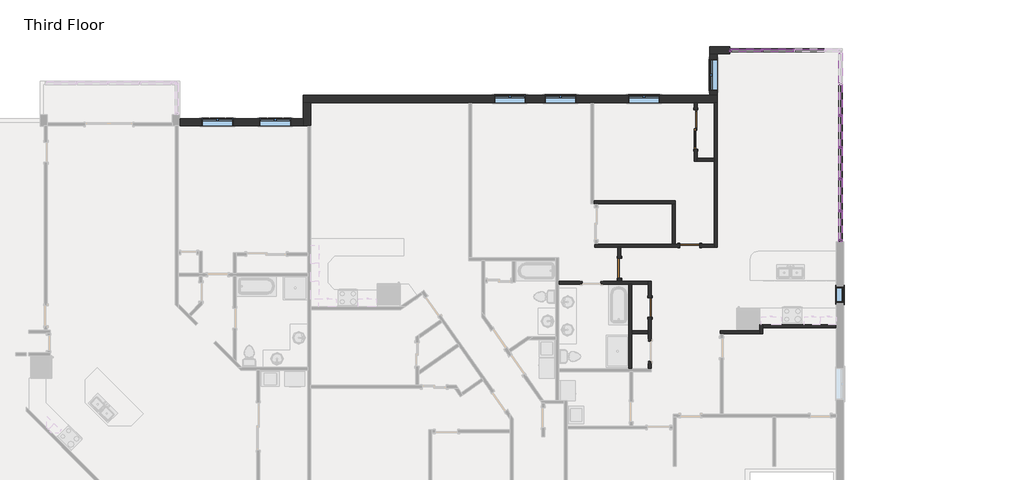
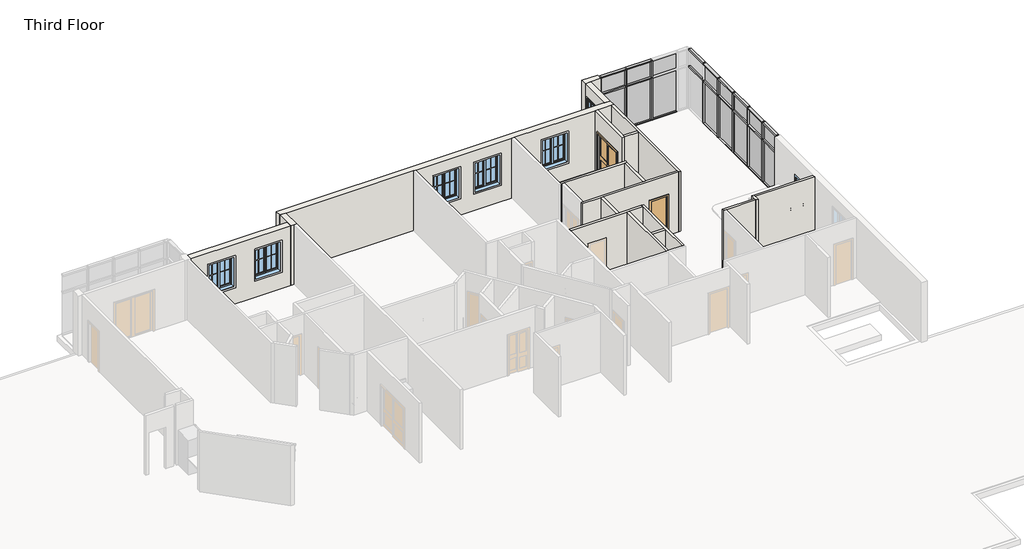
# One storey, part 12 of 17: 41 members, 19 walls, 16 plates, 7 windows, 4 doors.
"""IFC4 building model written with IfcOpenShell, lengths in millimetres."""

from ifc_helpers import new_model, si_unit, frame, origin, place, context, project, spatial, polyline, outline, extrude, faceted_brep, transform, mapped, element, save
from components import door_f2b275c1, door_2e7ec8be, rectangular_mullion_rectangular_mullion_1_fa3625a1, rectangular_mullion_rectangular_mullion_1_a50b3cda, rectangular_mullion_rectangular_mullion_1_5cd4c5ac, rectangular_mullion_rectangular_mullion_1_7cbf0b94, rectangular_mullion_rectangular_mullion_1_6186cc23, rectangular_mullion_rectangular_mullion_1_049a2e78, rectangular_mullion_rectangular_mullion_1_fcad50a8, rectangular_mullion_rectangular_mullion_1_aa096312, system_panel_glazed_53e6f9fb, system_panel_glazed_cb820e14, system_panel_glazed_f20beefc, system_panel_glazed_097fd36c, window_b85827b5, window_33528cc2

model = new_model("IFC4")

# Units and contexts
model_context = context("Model", 3, world=origin())
ifc_project = project(units=[si_unit("LENGTHUNIT", "METRE", prefix="MILLI")], contexts=[model_context])

# Site, building, storey
site = spatial("IfcSite", under=ifc_project)
building = spatial("IfcBuilding", under=site)
storey = spatial("IfcBuildingStorey", under=building, Name="Third Floor", Elevation=6096.0)

# Doors
placement = place(None, origin())
door_shape = door_f2b275c1(model_context)
element("IfcDoor", 1, ObjectType="Single-Flush : 30\" x 80\"", at=placement, inside=storey, context=model_context, shape_type="MappedRepresentation", body=[
    mapped(door_shape, transform((49850.4788879, 9096.855328, 6096.0), x_axis=(0.0, 1.0, 0.0), y_axis=(-1.0, 0.0, 0.0), z_axis=(0.0, 0.0, 1.0))),
])
element("IfcDoor", 2, ObjectType="Single-Flush : 30\" x 80\"", at=placement, inside=storey, context=model_context, shape_type="MappedRepresentation", body=[
    mapped(door_shape, transform((51382.3746633, 11479.9245559, 6096.0), x_axis=(-1.0, 0.0, 0.0), y_axis=(0.0, -1.0, 0.0), z_axis=(0.0, 0.0, 1.0))),
])
element("IfcDoor", 3, ObjectType="Single-Flush : 30\" x 80\"", at=placement, inside=storey, context=model_context, shape_type="MappedRepresentation", body=[
    mapped(door_shape, transform((48681.6260153, 10610.1456327, 6096.0), x_axis=(0.0, -1.0, 0.0), y_axis=(1.0, 0.0, 0.0), z_axis=(0.0, 0.0, 1.0))),
])
door_2_shape = door_2e7ec8be(model_context)
element("IfcDoor", 4, ObjectType="Sliding-Closet : 60\" x 80\"", at=placement, inside=storey, context=model_context, shape_type="MappedRepresentation", body=[
    mapped(door_2_shape, transform((51741.9440158, 15942.0032713, 6096.0), x_axis=(0.0, 1.0, 0.0), y_axis=(-1.0, 0.0, 0.0), z_axis=(0.0, 0.0, 1.0))),
])

# Members
rectangular_mullion_rectangular_mullion_1_shape = rectangular_mullion_rectangular_mullion_1_fa3625a1(model_context)
element("IfcMember", 5, ObjectType="Rectangular Mullion : Rectangular Mullion 1", at=placement, inside=storey, context=model_context, shape_type="MappedRepresentation", body=[
    mapped(rectangular_mullion_rectangular_mullion_1_shape, transform((54133.5034233, 18983.9169819, 9144.0), x_axis=(0.0, 0.0, 1.0), y_axis=(0.0, -1.0, 0.0), z_axis=(1.0, 0.0, 0.0))),
])
element("IfcMember", 6, ObjectType="Rectangular Mullion : Rectangular Mullion 1", at=placement, inside=storey, context=model_context, shape_type="MappedRepresentation", body=[
    mapped(rectangular_mullion_rectangular_mullion_1_shape, transform((55352.7034233, 18983.9169819, 9144.0), x_axis=(0.0, 0.0, 1.0), y_axis=(0.0, -1.0, 0.0), z_axis=(1.0, 0.0, 0.0))),
])
element("IfcMember", 7, ObjectType="Rectangular Mullion : Rectangular Mullion 1", at=placement, inside=storey, context=model_context, shape_type="MappedRepresentation", body=[
    mapped(rectangular_mullion_rectangular_mullion_1_shape, transform((57175.1534229, 17720.2669816, 9144.0), x_axis=(0.0, 0.0, 1.0), y_axis=(-1.0, 0.0, 0.0), z_axis=(0.0, -1.0, 0.0))),
])
element("IfcMember", 8, ObjectType="Rectangular Mullion : Rectangular Mullion 1", at=placement, inside=storey, context=model_context, shape_type="MappedRepresentation", body=[
    mapped(rectangular_mullion_rectangular_mullion_1_shape, transform((57175.1534229, 16501.0669816, 9144.0), x_axis=(0.0, 0.0, 1.0), y_axis=(-1.0, 0.0, 0.0), z_axis=(0.0, -1.0, 0.0))),
])
element("IfcMember", 9, ObjectType="Rectangular Mullion : Rectangular Mullion 1", at=placement, inside=storey, context=model_context, shape_type="MappedRepresentation", body=[
    mapped(rectangular_mullion_rectangular_mullion_1_shape, transform((57175.1534229, 15281.8669816, 9144.0), x_axis=(0.0, 0.0, 1.0), y_axis=(-1.0, 0.0, 0.0), z_axis=(0.0, -1.0, 0.0))),
])
element("IfcMember", 10, ObjectType="Rectangular Mullion : Rectangular Mullion 1", at=placement, inside=storey, context=model_context, shape_type="MappedRepresentation", body=[
    mapped(rectangular_mullion_rectangular_mullion_1_shape, transform((57175.1534229, 14062.6669816, 9144.0), x_axis=(0.0, 0.0, 1.0), y_axis=(-1.0, 0.0, 0.0), z_axis=(0.0, -1.0, 0.0))),
])
element("IfcMember", 11, ObjectType="Rectangular Mullion : Rectangular Mullion 1", at=placement, inside=storey, context=model_context, shape_type="MappedRepresentation", body=[
    mapped(rectangular_mullion_rectangular_mullion_1_shape, transform((57175.1534229, 12843.4669816, 9144.0), x_axis=(0.0, 0.0, 1.0), y_axis=(-1.0, 0.0, 0.0), z_axis=(0.0, -1.0, 0.0))),
])
element("IfcMember", 12, ObjectType="Rectangular Mullion : Rectangular Mullion 1", at=placement, inside=storey, context=model_context, shape_type="MappedRepresentation", body=[
    mapped(rectangular_mullion_rectangular_mullion_1_shape, transform((52977.8034229, 18983.9169819, 6096.0), x_axis=(0.0, 0.0, -1.0), y_axis=(0.0, -1.0, 0.0), z_axis=(-1.0, 0.0, 0.0))),
])
element("IfcMember", 13, ObjectType="Rectangular Mullion : Rectangular Mullion 1", at=placement, inside=storey, context=model_context, shape_type="MappedRepresentation", body=[
    mapped(rectangular_mullion_rectangular_mullion_1_shape, transform((54197.0034233, 18983.9169819, 6096.0), x_axis=(0.0, 0.0, -1.0), y_axis=(0.0, -1.0, 0.0), z_axis=(-1.0, 0.0, 0.0))),
])
element("IfcMember", 14, ObjectType="Rectangular Mullion : Rectangular Mullion 1", at=placement, inside=storey, context=model_context, shape_type="MappedRepresentation", body=[
    mapped(rectangular_mullion_rectangular_mullion_1_shape, transform((55416.2034233, 18983.9169819, 6096.0), x_axis=(0.0, 0.0, -1.0), y_axis=(0.0, -1.0, 0.0), z_axis=(-1.0, 0.0, 0.0))),
])
element("IfcMember", 15, ObjectType="Rectangular Mullion : Rectangular Mullion 1", at=placement, inside=storey, context=model_context, shape_type="MappedRepresentation", body=[
    mapped(rectangular_mullion_rectangular_mullion_1_shape, transform((57175.1534229, 17656.7669816, 6096.0), x_axis=(0.0, 0.0, -1.0), y_axis=(-1.0, 0.0, 0.0), z_axis=(0.0, 1.0, 0.0))),
])
element("IfcMember", 16, ObjectType="Rectangular Mullion : Rectangular Mullion 1", at=placement, inside=storey, context=model_context, shape_type="MappedRepresentation", body=[
    mapped(rectangular_mullion_rectangular_mullion_1_shape, transform((57175.1534229, 16437.5669816, 6096.0), x_axis=(0.0, 0.0, -1.0), y_axis=(-1.0, 0.0, 0.0), z_axis=(0.0, 1.0, 0.0))),
])
element("IfcMember", 17, ObjectType="Rectangular Mullion : Rectangular Mullion 1", at=placement, inside=storey, context=model_context, shape_type="MappedRepresentation", body=[
    mapped(rectangular_mullion_rectangular_mullion_1_shape, transform((57175.1534229, 15218.3669816, 6096.0), x_axis=(0.0, 0.0, -1.0), y_axis=(-1.0, 0.0, 0.0), z_axis=(0.0, 1.0, 0.0))),
])
element("IfcMember", 18, ObjectType="Rectangular Mullion : Rectangular Mullion 1", at=placement, inside=storey, context=model_context, shape_type="MappedRepresentation", body=[
    mapped(rectangular_mullion_rectangular_mullion_1_shape, transform((57175.1534229, 13999.1669816, 6096.0), x_axis=(0.0, 0.0, -1.0), y_axis=(-1.0, 0.0, 0.0), z_axis=(0.0, 1.0, 0.0))),
])
rectangular_mullion_rectangular_mullion_1_2_shape = rectangular_mullion_rectangular_mullion_1_a50b3cda(model_context)
element("IfcMember", 19, ObjectType="Rectangular Mullion : Rectangular Mullion 1", at=placement, inside=storey, context=model_context, shape_type="MappedRepresentation", body=[
    mapped(rectangular_mullion_rectangular_mullion_1_2_shape, transform((57175.1534229, 11632.2044819, 6096.0), x_axis=(0.0, -1.0, 0.0), y_axis=(-1.0, 0.0, 0.0), z_axis=(0.0, 0.0, -1.0))),
])
rectangular_mullion_rectangular_mullion_1_3_shape = rectangular_mullion_rectangular_mullion_1_5cd4c5ac(model_context)
element("IfcMember", 20, ObjectType="Rectangular Mullion : Rectangular Mullion 1", at=placement, inside=storey, context=model_context, shape_type="MappedRepresentation", body=[
    mapped(rectangular_mullion_rectangular_mullion_1_3_shape, transform((57175.1534229, 11632.2044819, 8261.35), x_axis=(0.0, -1.0, 0.0), y_axis=(-1.0, 0.0, 0.0), z_axis=(0.0, 0.0, -1.0))),
])
element("IfcMember", 21, ObjectType="Rectangular Mullion : Rectangular Mullion 1", at=placement, inside=storey, context=model_context, shape_type="MappedRepresentation", body=[
    mapped(rectangular_mullion_rectangular_mullion_1_3_shape, transform((52914.3034229, 18983.9169819, 9144.0), x_axis=(-1.0, 0.0, 0.0), y_axis=(0.0, -1.0, 0.0), z_axis=(0.0, 0.0, 1.0))),
])
element("IfcMember", 22, ObjectType="Rectangular Mullion : Rectangular Mullion 1", at=placement, inside=storey, context=model_context, shape_type="MappedRepresentation", body=[
    mapped(rectangular_mullion_rectangular_mullion_1_2_shape, transform((52914.3034229, 18983.9169819, 8261.35), x_axis=(-1.0, 0.0, 0.0), y_axis=(0.0, -1.0, 0.0), z_axis=(0.0, 0.0, 1.0))),
])
rectangular_mullion_rectangular_mullion_1_4_shape = rectangular_mullion_rectangular_mullion_1_7cbf0b94(model_context)
element("IfcMember", 23, ObjectType="Rectangular Mullion : Rectangular Mullion 1", at=placement, inside=storey, context=model_context, shape_type="MappedRepresentation", body=[
    mapped(rectangular_mullion_rectangular_mullion_1_4_shape, transform((54133.5034233, 18983.9169819, 8261.35), x_axis=(0.0, 0.0, 1.0), y_axis=(0.0, -1.0, 0.0), z_axis=(1.0, 0.0, 0.0))),
])
element("IfcMember", 24, ObjectType="Rectangular Mullion : Rectangular Mullion 1", at=placement, inside=storey, context=model_context, shape_type="MappedRepresentation", body=[
    mapped(rectangular_mullion_rectangular_mullion_1_4_shape, transform((55352.7034233, 18983.9169819, 8261.35), x_axis=(0.0, 0.0, 1.0), y_axis=(0.0, -1.0, 0.0), z_axis=(1.0, 0.0, 0.0))),
])
element("IfcMember", 25, ObjectType="Rectangular Mullion : Rectangular Mullion 1", at=placement, inside=storey, context=model_context, shape_type="MappedRepresentation", body=[
    mapped(rectangular_mullion_rectangular_mullion_1_4_shape, transform((57175.1534229, 17720.2669816, 8261.35), x_axis=(0.0, 0.0, 1.0), y_axis=(-1.0, 0.0, 0.0), z_axis=(0.0, -1.0, 0.0))),
])
element("IfcMember", 26, ObjectType="Rectangular Mullion : Rectangular Mullion 1", at=placement, inside=storey, context=model_context, shape_type="MappedRepresentation", body=[
    mapped(rectangular_mullion_rectangular_mullion_1_4_shape, transform((57175.1534229, 16501.0669816, 8261.35), x_axis=(0.0, 0.0, 1.0), y_axis=(-1.0, 0.0, 0.0), z_axis=(0.0, -1.0, 0.0))),
])
element("IfcMember", 27, ObjectType="Rectangular Mullion : Rectangular Mullion 1", at=placement, inside=storey, context=model_context, shape_type="MappedRepresentation", body=[
    mapped(rectangular_mullion_rectangular_mullion_1_4_shape, transform((57175.1534229, 15281.8669816, 8261.35), x_axis=(0.0, 0.0, 1.0), y_axis=(-1.0, 0.0, 0.0), z_axis=(0.0, -1.0, 0.0))),
])
element("IfcMember", 28, ObjectType="Rectangular Mullion : Rectangular Mullion 1", at=placement, inside=storey, context=model_context, shape_type="MappedRepresentation", body=[
    mapped(rectangular_mullion_rectangular_mullion_1_4_shape, transform((57175.1534229, 14062.6669816, 8261.35), x_axis=(0.0, 0.0, 1.0), y_axis=(-1.0, 0.0, 0.0), z_axis=(0.0, -1.0, 0.0))),
])
element("IfcMember", 29, ObjectType="Rectangular Mullion : Rectangular Mullion 1", at=placement, inside=storey, context=model_context, shape_type="MappedRepresentation", body=[
    mapped(rectangular_mullion_rectangular_mullion_1_4_shape, transform((57175.1534229, 12843.4669816, 8261.35), x_axis=(0.0, 0.0, 1.0), y_axis=(-1.0, 0.0, 0.0), z_axis=(0.0, -1.0, 0.0))),
])
rectangular_mullion_rectangular_mullion_1_5_shape = rectangular_mullion_rectangular_mullion_1_6186cc23(model_context)
element("IfcMember", 30, ObjectType="Rectangular Mullion : Rectangular Mullion 1", at=placement, inside=storey, context=model_context, shape_type="MappedRepresentation", body=[
    mapped(rectangular_mullion_rectangular_mullion_1_5_shape, transform((54165.2534233, 18983.9169819, 6096.0), x_axis=(1.0, 0.0, 0.0), y_axis=(0.0, -1.0, 0.0), z_axis=(0.0, 0.0, -1.0))),
])
element("IfcMember", 31, ObjectType="Rectangular Mullion : Rectangular Mullion 1", at=placement, inside=storey, context=model_context, shape_type="MappedRepresentation", body=[
    mapped(rectangular_mullion_rectangular_mullion_1_5_shape, transform((55384.4534233, 18983.9169819, 6096.0), x_axis=(1.0, 0.0, 0.0), y_axis=(0.0, -1.0, 0.0), z_axis=(0.0, 0.0, -1.0))),
])
element("IfcMember", 32, ObjectType="Rectangular Mullion : Rectangular Mullion 1", at=placement, inside=storey, context=model_context, shape_type="MappedRepresentation", body=[
    mapped(rectangular_mullion_rectangular_mullion_1_5_shape, transform((57175.1534229, 17688.5169816, 6096.0), x_axis=(0.0, -1.0, 0.0), y_axis=(-1.0, 0.0, 0.0), z_axis=(0.0, 0.0, -1.0))),
])
element("IfcMember", 33, ObjectType="Rectangular Mullion : Rectangular Mullion 1", at=placement, inside=storey, context=model_context, shape_type="MappedRepresentation", body=[
    mapped(rectangular_mullion_rectangular_mullion_1_5_shape, transform((57175.1534229, 16469.3169816, 6096.0), x_axis=(0.0, -1.0, 0.0), y_axis=(-1.0, 0.0, 0.0), z_axis=(0.0, 0.0, -1.0))),
])
element("IfcMember", 34, ObjectType="Rectangular Mullion : Rectangular Mullion 1", at=placement, inside=storey, context=model_context, shape_type="MappedRepresentation", body=[
    mapped(rectangular_mullion_rectangular_mullion_1_5_shape, transform((57175.1534229, 15250.1169816, 6096.0), x_axis=(0.0, -1.0, 0.0), y_axis=(-1.0, 0.0, 0.0), z_axis=(0.0, 0.0, -1.0))),
])
element("IfcMember", 35, ObjectType="Rectangular Mullion : Rectangular Mullion 1", at=placement, inside=storey, context=model_context, shape_type="MappedRepresentation", body=[
    mapped(rectangular_mullion_rectangular_mullion_1_5_shape, transform((57175.1534229, 14030.9169816, 6096.0), x_axis=(0.0, -1.0, 0.0), y_axis=(-1.0, 0.0, 0.0), z_axis=(0.0, 0.0, -1.0))),
])
element("IfcMember", 36, ObjectType="Rectangular Mullion : Rectangular Mullion 1", at=placement, inside=storey, context=model_context, shape_type="MappedRepresentation", body=[
    mapped(rectangular_mullion_rectangular_mullion_1_5_shape, transform((57175.1534229, 12811.7169816, 6096.0), x_axis=(0.0, -1.0, 0.0), y_axis=(-1.0, 0.0, 0.0), z_axis=(0.0, 0.0, -1.0))),
])
rectangular_mullion_rectangular_mullion_1_6_shape = rectangular_mullion_rectangular_mullion_1_049a2e78(model_context)
element("IfcMember", 37, ObjectType="Rectangular Mullion : Rectangular Mullion 1", at=placement, inside=storey, context=model_context, shape_type="MappedRepresentation", body=[
    mapped(rectangular_mullion_rectangular_mullion_1_6_shape, transform((54165.2534233, 18983.9169819, 8261.35), x_axis=(1.0, 0.0, 0.0), y_axis=(0.0, -1.0, 0.0), z_axis=(0.0, 0.0, -1.0))),
])
element("IfcMember", 38, ObjectType="Rectangular Mullion : Rectangular Mullion 1", at=placement, inside=storey, context=model_context, shape_type="MappedRepresentation", body=[
    mapped(rectangular_mullion_rectangular_mullion_1_6_shape, transform((55384.4534233, 18983.9169819, 8261.35), x_axis=(1.0, 0.0, 0.0), y_axis=(0.0, -1.0, 0.0), z_axis=(0.0, 0.0, -1.0))),
])
element("IfcMember", 39, ObjectType="Rectangular Mullion : Rectangular Mullion 1", at=placement, inside=storey, context=model_context, shape_type="MappedRepresentation", body=[
    mapped(rectangular_mullion_rectangular_mullion_1_6_shape, transform((57175.1534229, 16469.3169816, 8261.35), x_axis=(0.0, -1.0, 0.0), y_axis=(-1.0, 0.0, 0.0), z_axis=(0.0, 0.0, -1.0))),
])
element("IfcMember", 40, ObjectType="Rectangular Mullion : Rectangular Mullion 1", at=placement, inside=storey, context=model_context, shape_type="MappedRepresentation", body=[
    mapped(rectangular_mullion_rectangular_mullion_1_6_shape, transform((57175.1534229, 15250.1169816, 8261.35), x_axis=(0.0, -1.0, 0.0), y_axis=(-1.0, 0.0, 0.0), z_axis=(0.0, 0.0, -1.0))),
])
element("IfcMember", 41, ObjectType="Rectangular Mullion : Rectangular Mullion 1", at=placement, inside=storey, context=model_context, shape_type="MappedRepresentation", body=[
    mapped(rectangular_mullion_rectangular_mullion_1_6_shape, transform((57175.1534229, 14030.9169816, 8261.35), x_axis=(0.0, -1.0, 0.0), y_axis=(-1.0, 0.0, 0.0), z_axis=(0.0, 0.0, -1.0))),
])
element("IfcMember", 42, ObjectType="Rectangular Mullion : Rectangular Mullion 1", at=placement, inside=storey, context=model_context, shape_type="MappedRepresentation", body=[
    mapped(rectangular_mullion_rectangular_mullion_1_6_shape, transform((57175.1534229, 12811.7169816, 8261.35), x_axis=(0.0, -1.0, 0.0), y_axis=(-1.0, 0.0, 0.0), z_axis=(0.0, 0.0, -1.0))),
])
rectangular_mullion_rectangular_mullion_1_7_shape = rectangular_mullion_rectangular_mullion_1_fcad50a8(model_context)
element("IfcMember", 43, ObjectType="Rectangular Mullion : Rectangular Mullion 1", at=placement, inside=storey, context=model_context, shape_type="MappedRepresentation", body=[
    mapped(rectangular_mullion_rectangular_mullion_1_7_shape, transform((57175.1534229, 11695.7044819, 9144.0), x_axis=(0.0, 0.0, 1.0), y_axis=(-1.0, 0.0, 0.0), z_axis=(0.0, -1.0, 0.0))),
])
element("IfcMember", 44, ObjectType="Rectangular Mullion : Rectangular Mullion 1", at=placement, inside=storey, context=model_context, shape_type="MappedRepresentation", body=[
    mapped(rectangular_mullion_rectangular_mullion_1_7_shape, transform((57175.1534229, 12779.9669816, 6096.0), x_axis=(0.0, 0.0, -1.0), y_axis=(-1.0, 0.0, 0.0), z_axis=(0.0, 1.0, 0.0))),
])
rectangular_mullion_rectangular_mullion_1_8_shape = rectangular_mullion_rectangular_mullion_1_aa096312(model_context)
element("IfcMember", 45, ObjectType="Rectangular Mullion : Rectangular Mullion 1", at=placement, inside=storey, context=model_context, shape_type="MappedRepresentation", body=[
    mapped(rectangular_mullion_rectangular_mullion_1_8_shape, transform((57175.1534229, 11695.7044819, 8261.35), x_axis=(0.0, 0.0, 1.0), y_axis=(-1.0, 0.0, 0.0), z_axis=(0.0, -1.0, 0.0))),
])

# Plates
system_panel_glazed_shape = system_panel_glazed_53e6f9fb(model_context)
element("IfcPlate", 46, ObjectType="System Panel : Glazed", at=placement, inside=storey, context=model_context, shape_type="MappedRepresentation", body=[
    mapped(system_panel_glazed_shape, transform((53555.6534231, 18983.9169819, 6159.5), x_axis=(1.0, 0.0, 0.0), y_axis=(0.0, 1.0, 0.0), z_axis=(0.0, 0.0, 1.0))),
])
element("IfcPlate", 47, ObjectType="System Panel : Glazed", at=placement, inside=storey, context=model_context, shape_type="MappedRepresentation", body=[
    mapped(system_panel_glazed_shape, transform((54774.8534233, 18983.9169819, 6159.5), x_axis=(1.0, 0.0, 0.0), y_axis=(0.0, 1.0, 0.0), z_axis=(0.0, 0.0, 1.0))),
])
element("IfcPlate", 48, ObjectType="System Panel : Glazed", at=placement, inside=storey, context=model_context, shape_type="MappedRepresentation", body=[
    mapped(system_panel_glazed_shape, transform((55994.0534233, 18983.9169819, 6159.5), x_axis=(1.0, 0.0, 0.0), y_axis=(0.0, 1.0, 0.0), z_axis=(0.0, 0.0, 1.0))),
])
element("IfcPlate", 49, ObjectType="System Panel : Glazed", at=placement, inside=storey, context=model_context, shape_type="MappedRepresentation", body=[
    mapped(system_panel_glazed_shape, transform((57175.1534229, 17078.9169816, 6159.5), x_axis=(0.0, -1.0, 0.0), y_axis=(1.0, 0.0, 0.0), z_axis=(0.0, 0.0, 1.0))),
])
element("IfcPlate", 50, ObjectType="System Panel : Glazed", at=placement, inside=storey, context=model_context, shape_type="MappedRepresentation", body=[
    mapped(system_panel_glazed_shape, transform((57175.1534229, 15859.7169816, 6159.5), x_axis=(0.0, -1.0, 0.0), y_axis=(1.0, 0.0, 0.0), z_axis=(0.0, 0.0, 1.0))),
])
element("IfcPlate", 51, ObjectType="System Panel : Glazed", at=placement, inside=storey, context=model_context, shape_type="MappedRepresentation", body=[
    mapped(system_panel_glazed_shape, transform((57175.1534229, 14640.5169816, 6159.5), x_axis=(0.0, -1.0, 0.0), y_axis=(1.0, 0.0, 0.0), z_axis=(0.0, 0.0, 1.0))),
])
element("IfcPlate", 52, ObjectType="System Panel : Glazed", at=placement, inside=storey, context=model_context, shape_type="MappedRepresentation", body=[
    mapped(system_panel_glazed_shape, transform((57175.1534229, 13421.3169816, 6159.5), x_axis=(0.0, -1.0, 0.0), y_axis=(1.0, 0.0, 0.0), z_axis=(0.0, 0.0, 1.0))),
])
system_panel_glazed_2_shape = system_panel_glazed_cb820e14(model_context)
element("IfcPlate", 53, ObjectType="System Panel : Glazed", at=placement, inside=storey, context=model_context, shape_type="MappedRepresentation", body=[
    mapped(system_panel_glazed_2_shape, transform((53555.6534231, 18983.9169819, 8293.1), x_axis=(1.0, 0.0, 0.0), y_axis=(0.0, 1.0, 0.0), z_axis=(0.0, 0.0, 1.0))),
])
element("IfcPlate", 54, ObjectType="System Panel : Glazed", at=placement, inside=storey, context=model_context, shape_type="MappedRepresentation", body=[
    mapped(system_panel_glazed_2_shape, transform((54774.8534233, 18983.9169819, 8293.1), x_axis=(1.0, 0.0, 0.0), y_axis=(0.0, 1.0, 0.0), z_axis=(0.0, 0.0, 1.0))),
])
element("IfcPlate", 55, ObjectType="System Panel : Glazed", at=placement, inside=storey, context=model_context, shape_type="MappedRepresentation", body=[
    mapped(system_panel_glazed_2_shape, transform((55994.0534233, 18983.9169819, 8293.1), x_axis=(1.0, 0.0, 0.0), y_axis=(0.0, 1.0, 0.0), z_axis=(0.0, 0.0, 1.0))),
])
element("IfcPlate", 56, ObjectType="System Panel : Glazed", at=placement, inside=storey, context=model_context, shape_type="MappedRepresentation", body=[
    mapped(system_panel_glazed_2_shape, transform((57175.1534229, 17078.9169816, 8293.1), x_axis=(0.0, -1.0, 0.0), y_axis=(1.0, 0.0, 0.0), z_axis=(0.0, 0.0, 1.0))),
])
element("IfcPlate", 57, ObjectType="System Panel : Glazed", at=placement, inside=storey, context=model_context, shape_type="MappedRepresentation", body=[
    mapped(system_panel_glazed_2_shape, transform((57175.1534229, 15859.7169816, 8293.1), x_axis=(0.0, -1.0, 0.0), y_axis=(1.0, 0.0, 0.0), z_axis=(0.0, 0.0, 1.0))),
])
element("IfcPlate", 58, ObjectType="System Panel : Glazed", at=placement, inside=storey, context=model_context, shape_type="MappedRepresentation", body=[
    mapped(system_panel_glazed_2_shape, transform((57175.1534229, 14640.5169816, 8293.1), x_axis=(0.0, -1.0, 0.0), y_axis=(1.0, 0.0, 0.0), z_axis=(0.0, 0.0, 1.0))),
])
element("IfcPlate", 59, ObjectType="System Panel : Glazed", at=placement, inside=storey, context=model_context, shape_type="MappedRepresentation", body=[
    mapped(system_panel_glazed_2_shape, transform((57175.1534229, 13421.3169816, 8293.1), x_axis=(0.0, -1.0, 0.0), y_axis=(1.0, 0.0, 0.0), z_axis=(0.0, 0.0, 1.0))),
])
system_panel_glazed_3_shape = system_panel_glazed_f20beefc(model_context)
element("IfcPlate", 60, ObjectType="System Panel : Glazed", at=placement, inside=storey, context=model_context, shape_type="MappedRepresentation", body=[
    mapped(system_panel_glazed_3_shape, transform((57175.1534229, 12237.8357318, 6159.5), x_axis=(0.0, -1.0, 0.0), y_axis=(1.0, 0.0, 0.0), z_axis=(0.0, 0.0, 1.0))),
])
system_panel_glazed_4_shape = system_panel_glazed_097fd36c(model_context)
element("IfcPlate", 61, ObjectType="System Panel : Glazed", at=placement, inside=storey, context=model_context, shape_type="MappedRepresentation", body=[
    mapped(system_panel_glazed_4_shape, transform((57175.1534229, 12237.8357318, 8293.1), x_axis=(0.0, -1.0, 0.0), y_axis=(1.0, 0.0, 0.0), z_axis=(0.0, 0.0, 1.0))),
])

# Walls
element("IfcWall", 62, ObjectType="Exterior - Brick on Wood Stud", at=placement, inside=storey, context=model_context, shape_type="Brep", body=[
    faceted_brep([(52157.0659229, 18842.6294819, 6096.0), (52439.6409229, 18842.6294819, 6096.0), (52914.3034229, 18842.6294819, 6096.0), (52914.3034229, 18842.6294819, 9144.0), (52439.6409229, 18842.6294819, 9144.0), (52157.0659229, 18842.6294819, 9144.0), (52157.0659229, 19125.2044819, 6096.0), (52157.0659229, 19125.2044819, 9144.0), (52914.3034229, 19125.2044819, 9144.0), (52914.3034229, 19125.2044819, 6096.0)], [[[0, 1, 2, 3, 4, 5]], [[6, 7, 8, 9]], [[2, 1, 0, 6, 9]], [[3, 2, 9, 8]], [[5, 4, 3, 8, 7]], [[0, 5, 7, 6]]]),
])
element("IfcWall", 63, ObjectType="Exterior - Brick on Wood Stud", at=placement, inside=storey, context=model_context, shape_type="Brep", body=[
    faceted_brep([(36533.8428001, 16964.1039258, 6096.0), (36816.4178001, 16964.1039258, 6096.0), (42890.1928001, 16964.1039258, 6096.0), (43004.4928001, 16964.1039258, 6096.0), (47578.7440143, 16964.1039258, 6096.0), (47693.0440143, 16964.1039258, 6096.0), (51557.7940158, 16964.1039258, 6096.0), (51672.0940158, 16964.1039258, 6096.0), (52325.3409229, 16964.1039258, 6096.0), (52439.6409229, 16964.1039258, 6096.0), (52439.6409229, 16964.1039258, 9144.0), (52325.3409229, 16964.1039258, 9144.0), (51672.0940158, 16964.1039258, 9144.0), (51557.7940158, 16964.1039258, 9144.0), (47693.0440143, 16964.1039258, 9144.0), (47578.7440143, 16964.1039258, 9144.0), (43004.4928001, 16964.1039258, 9144.0), (42890.1928001, 16964.1039258, 9144.0), (36816.4178001, 16964.1039258, 9144.0), (36533.8428001, 16964.1039258, 9144.0), (45080.9428001, 16964.1039258, 8534.4), (45080.9428001, 16964.1039258, 7010.4), (43861.7428001, 16964.1039258, 7010.4), (43861.7428001, 16964.1039258, 8534.4), (50235.0190151, 16964.1039258, 8534.4), (50235.0190151, 16964.1039258, 7010.4), (49015.8190151, 16964.1039258, 7010.4), (49015.8190151, 16964.1039258, 8534.4), (47026.2940143, 16964.1039258, 8534.4), (47026.2940143, 16964.1039258, 7010.4), (45807.0940143, 16964.1039258, 7010.4), (45807.0940143, 16964.1039258, 8534.4), (36533.8428001, 17246.6789258, 6096.0), (36533.8428001, 17246.6789258, 9144.0), (52157.0659229, 17246.6789258, 9144.0), (52439.6409229, 17246.6789258, 9144.0), (52439.6409229, 17246.6789258, 6096.0), (52157.0659229, 17246.6789258, 6096.0), (45080.9428001, 17246.6789258, 8534.4), (43861.7428001, 17246.6789258, 8534.4), (43861.7428001, 17246.6789258, 7010.4), (45080.9428001, 17246.6789258, 7010.4), (50235.0190151, 17246.6789258, 8534.4), (49015.8190151, 17246.6789258, 8534.4), (49015.8190151, 17246.6789258, 7010.4), (50235.0190151, 17246.6789258, 7010.4), (47026.2940143, 17246.6789258, 8534.4), (45807.0940143, 17246.6789258, 8534.4), (45807.0940143, 17246.6789258, 7010.4), (47026.2940143, 17246.6789258, 7010.4)], [[[0, 1, 2, 3, 4, 5, 6, 7, 8, 9, 10, 11, 12, 13, 14, 15, 16, 17, 18, 19], [20, 21, 22, 23], [24, 25, 26, 27], [28, 29, 30, 31]], [[32, 33, 34, 35, 36, 37], [38, 39, 40, 41], [42, 43, 44, 45], [46, 47, 48, 49]], [[21, 20, 38, 41]], [[22, 21, 41, 40]], [[23, 22, 40, 39]], [[20, 23, 39, 38]], [[25, 24, 42, 45]], [[26, 25, 45, 44]], [[27, 26, 44, 43]], [[24, 27, 43, 42]], [[29, 28, 46, 49]], [[30, 29, 49, 48]], [[31, 30, 48, 47]], [[28, 31, 47, 46]], [[9, 8, 7, 6, 5, 4, 3, 2, 1, 0, 32, 37, 36]], [[19, 18, 17, 16, 15, 14, 13, 12, 11, 10, 35, 34, 33]], [[0, 19, 33, 32]], [[10, 9, 36, 35]]]),
])
element("IfcWall", 64, ObjectType="Exterior - Brick on Wood Stud", at=placement, inside=storey, context=model_context, shape_type="Brep", body=[
    faceted_brep([(36533.8428001, 16964.1039258, 6096.0), (36533.8428001, 16359.6615339, 6096.0), (36533.8428001, 16077.0865339, 6096.0), (36533.8428001, 16077.0865339, 9144.0), (36533.8428001, 16359.6615339, 9144.0), (36533.8428001, 16964.1039258, 9144.0), (36816.4178001, 16964.1039258, 6096.0), (36816.4178001, 16964.1039258, 9144.0), (36816.4178001, 16077.0865339, 9144.0), (36816.4178001, 16077.0865339, 6096.0), (36702.1178001, 16077.0865339, 6096.0), (36702.1178001, 16077.0865339, 9144.0)], [[[0, 1, 2, 3, 4, 5]], [[6, 7, 8, 9]], [[2, 1, 0, 6, 9, 10]], [[5, 4, 3, 11, 8, 7]], [[3, 2, 10, 9, 8, 11]], [[0, 5, 7, 6]]]),
])
element("IfcWall", 65, ObjectType="Exterior - Brick on Wood Stud", at=placement, inside=storey, context=model_context, shape_type="SweptSolid", body=[
    extrude(outline(polyline([(18842.6294819, 6096.0), (17246.6789258, 6096.0), (17246.6789258, 9144.0), (18842.6294819, 9144.0), (18842.6294819, 6096.0)]), holes=[polyline([(18641.5542038, 8534.4), (17422.3542038, 8534.4), (17422.3542038, 7010.4), (18641.5542038, 7010.4), (18641.5542038, 8534.4)])]), frame((52157.0659229, 0.0, 0.0), z_axis=(1.0, 0.0, 0.0), x_axis=(0.0, 1.0, 0.0)), (0.0, 0.0, 1.0), 282.575),
])
element("IfcWall", 66, ObjectType="Exterior - Brick on Wood Stud", at=placement, inside=storey, context=model_context, shape_type="SweptSolid", body=[
    extrude(outline(polyline([(6096.0, 36533.8428001), (9144.0, 36533.8428001), (9144.0, 31777.7798474), (6096.0, 31777.7798474), (6096.0, 36533.8428001)]), holes=[polyline([(8534.4, 36065.5303001), (7010.4, 36065.5303001), (7010.4, 34846.3303001), (8534.4, 34846.3303001), (8534.4, 36065.5303001)]), polyline([(8534.4, 33846.2923474), (7010.4, 33846.2923474), (7010.4, 32627.0923474), (8534.4, 32627.0923474), (8534.4, 33846.2923474)])]), frame((0.0, 16077.0865339, 0.0), z_axis=(0.0, 1.0, 0.0), x_axis=(0.0, 0.0, 1.0)), (0.0, 0.0, 1.0), 282.575),
])
element("IfcWall", 67, ObjectType="Interior - 4 1/2\" Partition", at=placement, inside=storey, context=model_context, shape_type="Brep", body=[
    faceted_brep([(47693.0440143, 13091.2456698, 6096.0), (47731.1440143, 13091.2456698, 6096.0), (47845.4440143, 13091.2456698, 6096.0), (50715.6246633, 13091.2456698, 6096.0), (50829.9246633, 13091.2456698, 6096.0), (50829.9246633, 13091.2456698, 9144.0), (50715.6246633, 13091.2456698, 9144.0), (47845.4440143, 13091.2456698, 9144.0), (47731.1440143, 13091.2456698, 9144.0), (47693.0440143, 13091.2456698, 9144.0), (47693.0440143, 13205.5456698, 6096.0), (47693.0440143, 13205.5456698, 9144.0), (50829.9246633, 13205.5456698, 9144.0), (50829.9246633, 13205.5456698, 6096.0)], [[[0, 1, 2, 3, 4, 5, 6, 7, 8, 9]], [[10, 11, 12, 13]], [[4, 3, 2, 1, 0, 10, 13]], [[9, 8, 7, 6, 5, 12, 11]], [[5, 4, 13, 12]], [[0, 9, 11, 10]]]),
])
element("IfcWall", 68, ObjectType="Interior - 4 1/2\" Partition", at=placement, inside=storey, context=model_context, shape_type="SweptSolid", body=[
    extrude(outline(polyline([(50715.6246633, 11537.0745559), (50715.6246633, 13091.2456698), (50829.9246633, 13091.2456698), (50829.9246633, 11537.0745559), (50715.6246633, 11537.0745559)])), frame((0.0, 0.0, 6096.0), z_axis=(0.0, 0.0, 1.0), x_axis=(1.0, 0.0, 0.0)), (0.0, 0.0, 1.0), 3048.0),
])
element("IfcWall", 69, ObjectType="Interior - 4 1/2\" Partition", at=placement, inside=storey, context=model_context, shape_type="Brep", body=[
    faceted_brep([(52325.3409229, 16964.1039258, 6096.0), (52325.3409229, 14835.7651168, 6096.0), (52325.3409229, 14721.4651168, 6096.0), (52325.3409229, 11537.0745559, 6096.0), (52325.3409229, 11422.7745559, 6096.0), (52325.3409229, 11422.7745559, 9144.0), (52325.3409229, 11537.0745559, 9144.0), (52325.3409229, 14721.4651168, 9144.0), (52325.3409229, 14835.7651168, 9144.0), (52325.3409229, 16964.1039258, 9144.0), (52439.6409229, 16964.1039258, 6096.0), (52439.6409229, 16964.1039258, 9144.0), (52439.6409229, 11422.7745559, 9144.0), (52439.6409229, 11422.7745559, 6096.0)], [[[0, 1, 2, 3, 4, 5, 6, 7, 8, 9]], [[10, 11, 12, 13]], [[4, 3, 2, 1, 0, 10, 13]], [[9, 8, 7, 6, 5, 12, 11]], [[5, 4, 13, 12]], [[0, 9, 11, 10]]]),
])
element("IfcWall", 70, ObjectType="Interior - 4 1/2\" Partition", at=placement, inside=storey, context=model_context, shape_type="Brep", body=[
    faceted_brep([(51001.3746633, 11537.0745559, 8128.0), (51001.3746633, 11537.0745559, 6096.0), (50829.9246633, 11537.0745559, 6096.0), (50715.6246633, 11537.0745559, 6096.0), (47845.4440143, 11537.0745559, 6096.0), (47731.1440143, 11537.0745559, 6096.0), (47731.1440143, 11537.0745559, 9144.0), (47845.4440143, 11537.0745559, 9144.0), (50715.6246633, 11537.0745559, 9144.0), (50829.9246633, 11537.0745559, 9144.0), (52325.3409229, 11537.0745559, 9144.0), (52325.3409229, 11537.0745559, 6096.0), (51763.3746633, 11537.0745559, 6096.0), (51763.3746633, 11537.0745559, 8128.0), (47731.1440143, 11422.7745559, 6096.0), (48624.4760153, 11422.7745559, 6096.0), (48738.7760153, 11422.7745559, 6096.0), (51001.3746633, 11422.7745559, 6096.0), (51001.3746633, 11422.7745559, 8128.0), (51763.3746633, 11422.7745559, 8128.0), (51763.3746633, 11422.7745559, 6096.0), (52325.3409229, 11422.7745559, 6096.0), (52325.3409229, 11422.7745559, 9144.0), (48738.7760153, 11422.7745559, 9144.0), (48624.4760153, 11422.7745559, 9144.0), (47731.1440143, 11422.7745559, 9144.0)], [[[0, 1, 2, 3, 4, 5, 6, 7, 8, 9, 10, 11, 12, 13]], [[14, 15, 16, 17, 18, 19, 20, 21, 22, 23, 24, 25]], [[12, 11, 21, 20]], [[5, 4, 3, 2, 1, 17, 16, 15, 14]], [[10, 9, 8, 7, 6, 25, 24, 23, 22]], [[18, 17, 1, 0]], [[19, 18, 0, 13]], [[20, 19, 13, 12]], [[6, 5, 14, 25]], [[11, 10, 22, 21]]]),
])
element("IfcWall", 71, ObjectType="Interior - 4 1/2\" Partition", at=placement, inside=storey, context=model_context, shape_type="Brep", body=[
    faceted_brep([(49907.6288879, 9477.855328, 8128.0), (49907.6288879, 9477.855328, 6096.0), (49907.6288879, 10102.3167096, 6096.0), (49907.6288879, 10102.3167096, 9144.0), (49907.6288879, 6749.5167096, 9144.0), (49907.6288879, 6749.5167096, 6096.0), (49907.6288879, 7039.455328, 6096.0), (49907.6288879, 7039.455328, 8128.0), (49907.6288879, 7801.455328, 8128.0), (49907.6288879, 7801.455328, 6096.0), (49907.6288879, 8715.855328, 6096.0), (49907.6288879, 8715.855328, 8128.0), (49793.3288879, 10102.3167096, 6096.0), (49793.3288879, 9988.0167096, 6096.0), (49793.3288879, 9477.855328, 6096.0), (49793.3288879, 9477.855328, 8128.0), (49793.3288879, 8715.855328, 8128.0), (49793.3288879, 8715.855328, 6096.0), (49793.3288879, 8205.6939464, 6096.0), (49793.3288879, 8091.3939464, 6096.0), (49793.3288879, 7801.455328, 6096.0), (49793.3288879, 7801.455328, 8128.0), (49793.3288879, 7039.455328, 8128.0), (49793.3288879, 7039.455328, 6096.0), (49793.3288879, 6749.5167096, 6096.0), (49793.3288879, 6749.5167096, 9144.0), (49793.3288879, 8091.3939464, 9144.0), (49793.3288879, 8205.6939464, 9144.0), (49793.3288879, 9988.0167096, 9144.0), (49793.3288879, 10102.3167096, 9144.0)], [[[0, 1, 2, 3, 4, 5, 6, 7, 8, 9, 10, 11]], [[12, 13, 14, 15, 16, 17, 18, 19, 20, 21, 22, 23, 24, 25, 26, 27, 28, 29]], [[24, 23, 6, 5]], [[10, 9, 20, 19, 18, 17]], [[2, 1, 14, 13, 12]], [[4, 3, 29, 28, 27, 26, 25]], [[7, 6, 23, 22]], [[8, 7, 22, 21]], [[9, 8, 21, 20]], [[15, 14, 1, 0]], [[16, 15, 0, 11]], [[17, 16, 11, 10]], [[3, 2, 12, 29]], [[5, 4, 25, 24]]]),
])
element("IfcWall", 72, ObjectType="Interior - 4 1/2\" Partition", at=placement, inside=storey, context=model_context, shape_type="Brep", body=[
    faceted_brep([(49793.3288879, 10102.3167096, 6096.0), (48738.7760153, 10102.3167096, 6096.0), (48624.4760153, 10102.3167096, 6096.0), (47970.4260153, 10102.3167096, 6096.0), (47970.4260153, 10102.3167096, 8128.0), (47259.2260153, 10102.3167096, 8128.0), (47259.2260153, 10102.3167096, 6096.0), (46352.4352525, 10102.3167096, 6096.0), (46352.4352525, 10102.3167096, 9144.0), (48624.4760153, 10102.3167096, 9144.0), (48738.7760153, 10102.3167096, 9144.0), (49793.3288879, 10102.3167096, 9144.0), (47970.4260153, 9988.0167096, 8128.0), (47970.4260153, 9988.0167096, 6096.0), (49032.3272963, 9988.0167096, 6096.0), (49146.6272963, 9988.0167096, 6096.0), (49793.3288879, 9988.0167096, 6096.0), (49793.3288879, 9988.0167096, 9144.0), (49146.6272963, 9988.0167096, 9144.0), (49032.3272963, 9988.0167096, 9144.0), (46352.4352525, 9988.0167096, 9144.0), (46352.4352525, 9988.0167096, 6096.0), (47259.2260153, 9988.0167096, 6096.0), (47259.2260153, 9988.0167096, 8128.0)], [[[0, 1, 2, 3, 4, 5, 6, 7, 8, 9, 10, 11]], [[12, 13, 14, 15, 16, 17, 18, 19, 20, 21, 22, 23]], [[22, 21, 7, 6]], [[16, 15, 14, 13, 3, 2, 1, 0]], [[11, 10, 9, 8, 20, 19, 18, 17]], [[4, 3, 13, 12]], [[5, 4, 12, 23]], [[6, 5, 23, 22]], [[0, 11, 17, 16]], [[8, 7, 21, 20]]]),
])
element("IfcWall", 73, ObjectType="Interior - 4 1/2\" Partition", at=placement, inside=storey, context=model_context, shape_type="Brep", body=[
    faceted_brep([(49146.6272963, 6749.5167096, 6096.0), (49146.6272963, 8091.3939464, 6096.0), (49146.6272963, 8205.6939464, 6096.0), (49146.6272963, 9988.0167096, 6096.0), (49146.6272963, 9988.0167096, 9144.0), (49146.6272963, 8205.6939464, 9144.0), (49146.6272963, 8091.3939464, 9144.0), (49146.6272963, 6749.5167096, 9144.0), (49032.3272963, 6749.5167096, 6096.0), (49032.3272963, 6749.5167096, 9144.0), (49032.3272963, 9988.0167096, 9144.0), (49032.3272963, 9988.0167096, 6096.0)], [[[0, 1, 2, 3, 4, 5, 6, 7]], [[8, 9, 10, 11]], [[3, 2, 1, 0, 8, 11]], [[7, 6, 5, 4, 10, 9]], [[4, 3, 11, 10]], [[0, 7, 9, 8]]]),
])
element("IfcWall", 74, ObjectType="Interior - 4 1/2\" Partition", at=placement, inside=storey, context=model_context, shape_type="SweptSolid", body=[
    extrude(outline(polyline([(54188.4985135, 8425.9167096), (57019.8087704, 8425.9167096), (57019.8087704, 8311.6167096), (54188.4985135, 8311.6167096), (54188.4985135, 8425.9167096)])), frame((0.0, 0.0, 6096.0), z_axis=(0.0, 0.0, 1.0), x_axis=(1.0, 0.0, 0.0)), (0.0, 0.0, 1.0), 3048.0),
])
element("IfcWall", 75, ObjectType="Interior - 4 1/2\" Partition", at=placement, inside=storey, context=model_context, shape_type="Brep", body=[
    faceted_brep([(54074.1985135, 8425.9167096, 6096.0), (54074.1985135, 8205.6939464, 6096.0), (54074.1985135, 8091.3939464, 6096.0), (54074.1985135, 8091.3939464, 9144.0), (54074.1985135, 8205.6939464, 9144.0), (54074.1985135, 8425.9167096, 9144.0), (54188.4985135, 8425.9167096, 6096.0), (54188.4985135, 8425.9167096, 9144.0), (54188.4985135, 8311.6167096, 9144.0), (54188.4985135, 8091.3939464, 9144.0), (54188.4985135, 8091.3939464, 6096.0), (54188.4985135, 8311.6167096, 6096.0)], [[[0, 1, 2, 3, 4, 5]], [[6, 7, 8, 9, 10, 11]], [[2, 1, 0, 6, 11, 10]], [[5, 4, 3, 9, 8, 7]], [[3, 2, 10, 9]], [[0, 5, 7, 6]]]),
])
element("IfcWall", 76, ObjectType="Interior - 4 1/2\" Partition", at=placement, inside=storey, context=model_context, shape_type="Brep", body=[
    faceted_brep([(54074.1985135, 8205.6939464, 6096.0), (52550.1985135, 8205.6939464, 6096.0), (52550.1985135, 8205.6939464, 9144.0), (54074.1985135, 8205.6939464, 9144.0), (54074.1985135, 8091.3939464, 6096.0), (54074.1985135, 8091.3939464, 9144.0), (52664.4985135, 8091.3939464, 9144.0), (52550.1985135, 8091.3939464, 9144.0), (52550.1985135, 8091.3939464, 6096.0), (52664.4985135, 8091.3939464, 6096.0)], [[[0, 1, 2, 3]], [[4, 5, 6, 7, 8, 9]], [[1, 0, 4, 9, 8]], [[3, 2, 7, 6, 5]], [[2, 1, 8, 7]], [[0, 3, 5, 4]]]),
])
element("IfcWall", 77, ObjectType="Interior - 4 1/2\" Partition", at=placement, inside=storey, context=model_context, shape_type="Brep", body=[
    faceted_brep([(51557.7940158, 16964.1039258, 6096.0), (51557.7940158, 16704.0032713, 6096.0), (51557.7940158, 16704.0032713, 8128.0), (51557.7940158, 15180.0032713, 8128.0), (51557.7940158, 15180.0032713, 6096.0), (51557.7940158, 14721.4651168, 6096.0), (51557.7940158, 14721.4651168, 9144.0), (51557.7940158, 16964.1039258, 9144.0), (51672.0940158, 16704.0032713, 8128.0), (51672.0940158, 16704.0032713, 6096.0), (51672.0940158, 16964.1039258, 6096.0), (51672.0940158, 16964.1039258, 9144.0), (51672.0940158, 14835.7651168, 9144.0), (51672.0940158, 14721.4651168, 9144.0), (51672.0940158, 14721.4651168, 6096.0), (51672.0940158, 14835.7651168, 6096.0), (51672.0940158, 15180.0032713, 6096.0), (51672.0940158, 15180.0032713, 8128.0)], [[[0, 1, 2, 3, 4, 5, 6, 7]], [[8, 9, 10, 11, 12, 13, 14, 15, 16, 17]], [[10, 9, 1, 0]], [[16, 15, 14, 5, 4]], [[7, 6, 13, 12, 11]], [[4, 3, 17, 16]], [[2, 1, 9, 8]], [[3, 2, 8, 17]], [[6, 5, 14, 13]], [[0, 7, 11, 10]]]),
])
element("IfcWall", 78, ObjectType="Interior - 4 1/2\" Partition", at=placement, inside=storey, context=model_context, shape_type="SweptSolid", body=[
    extrude(outline(polyline([(52325.3409229, 14721.4651168), (51672.0940158, 14721.4651168), (51672.0940158, 14835.7651168), (52325.3409229, 14835.7651168), (52325.3409229, 14721.4651168)])), frame((0.0, 0.0, 6096.0), z_axis=(0.0, 0.0, 1.0), x_axis=(1.0, 0.0, 0.0)), (0.0, 0.0, 1.0), 3048.0),
])
element("IfcWall", 79, ObjectType="Interior - 4 1/2\" Partition", at=placement, inside=storey, context=model_context, shape_type="SweptSolid", body=[
    extrude(outline(polyline([(49793.3288879, 8091.3939464), (49146.6272963, 8091.3939464), (49146.6272963, 8205.6939464), (49793.3288879, 8205.6939464), (49793.3288879, 8091.3939464)])), frame((0.0, 0.0, 6096.0), z_axis=(0.0, 0.0, 1.0), x_axis=(1.0, 0.0, 0.0)), (0.0, 0.0, 1.0), 3048.0),
])
element("IfcWall", 80, ObjectType="Interior - 4 1/2\" Partition", at=placement, inside=storey, context=model_context, shape_type="SweptSolid", body=[
    extrude(outline(polyline([(10229.1456327, 8128.0), (10229.1456327, 6096.0), (10102.3167096, 6096.0), (10102.3167096, 9144.0), (11422.7745559, 9144.0), (11422.7745559, 6096.0), (10991.1456327, 6096.0), (10991.1456327, 8128.0), (10229.1456327, 8128.0)])), frame((48624.4760153, 0.0, 0.0), z_axis=(1.0, 0.0, 0.0), x_axis=(0.0, 1.0, 0.0)), (0.0, 0.0, 1.0), 114.3),
])

# Windows
window_shape = window_b85827b5(model_context)
element("IfcWindow", 81, ObjectType="Fixed with Trim : 24\" x 48\"", at=placement, inside=storey, context=model_context, shape_type="MappedRepresentation", body=[
    mapped(window_shape, transform((57161.0962704, 9549.8667096, 6096.0), x_axis=(0.0, -1.0, 0.0), y_axis=(1.0, 0.0, 0.0), z_axis=(0.0, 0.0, 1.0))),
])
window_2_shape = window_33528cc2(model_context)
element("IfcWindow", 82, ObjectType="Window-Casement-Double : 48\" x 60\"", at=placement, inside=storey, context=model_context, shape_type="MappedRepresentation", body=[
    mapped(window_2_shape, transform((44471.3428001, 17105.3914258, 6096.0), x_axis=(1.0, 0.0, 0.0), y_axis=(0.0, 1.0, 0.0), z_axis=(0.0, 0.0, 1.0))),
])
element("IfcWindow", 83, ObjectType="Window-Casement-Double : 48\" x 60\"", at=placement, inside=storey, context=model_context, shape_type="MappedRepresentation", body=[
    mapped(window_2_shape, transform((49625.4190151, 17105.3914258, 6096.0), x_axis=(1.0, 0.0, 0.0), y_axis=(0.0, 1.0, 0.0), z_axis=(0.0, 0.0, 1.0))),
])
element("IfcWindow", 84, ObjectType="Window-Casement-Double : 48\" x 60\"", at=placement, inside=storey, context=model_context, shape_type="MappedRepresentation", body=[
    mapped(window_2_shape, transform((35455.9303001, 16218.3740339, 6096.0), x_axis=(1.0, 0.0, 0.0), y_axis=(0.0, 1.0, 0.0), z_axis=(0.0, 0.0, 1.0))),
])
element("IfcWindow", 85, ObjectType="Window-Casement-Double : 48\" x 60\"", at=placement, inside=storey, context=model_context, shape_type="MappedRepresentation", body=[
    mapped(window_2_shape, transform((33236.6923474, 16218.3740339, 6096.0), x_axis=(1.0, 0.0, 0.0), y_axis=(0.0, 1.0, 0.0), z_axis=(0.0, 0.0, 1.0))),
])
element("IfcWindow", 86, ObjectType="Window-Casement-Double : 48\" x 60\"", at=placement, inside=storey, context=model_context, shape_type="MappedRepresentation", body=[
    mapped(window_2_shape, transform((46416.6940143, 17105.3914258, 6096.0), x_axis=(1.0, 0.0, 0.0), y_axis=(0.0, 1.0, 0.0), z_axis=(0.0, 0.0, 1.0))),
])
element("IfcWindow", 87, ObjectType="Window-Casement-Double : 48\" x 60\"", at=placement, inside=storey, context=model_context, shape_type="MappedRepresentation", body=[
    mapped(window_2_shape, transform((52298.3534229, 18031.9542038, 6096.0), x_axis=(0.0, 1.0, 0.0), y_axis=(-1.0, 0.0, 0.0), z_axis=(0.0, 0.0, 1.0))),
])

save(model, "model.ifc")
